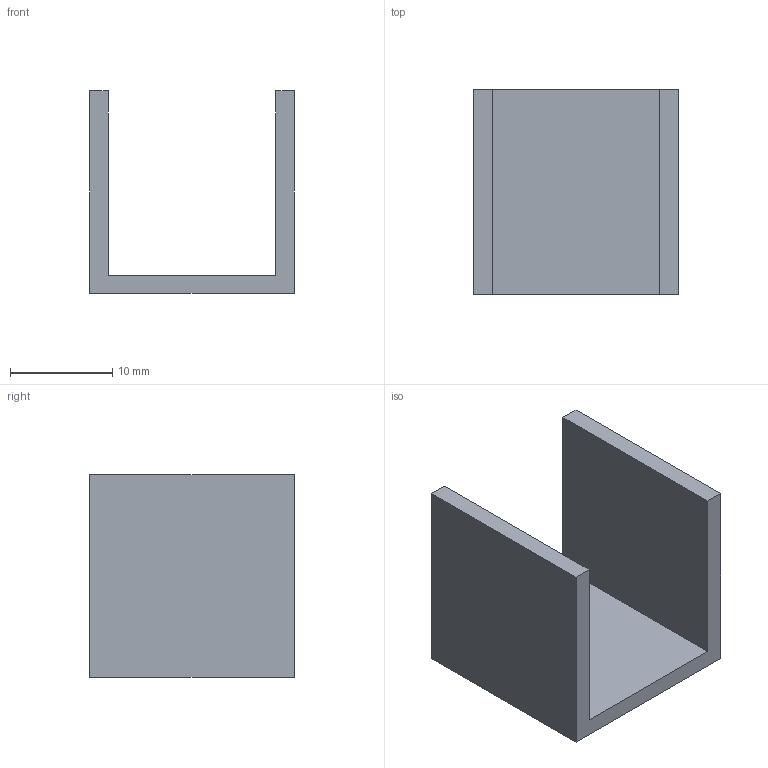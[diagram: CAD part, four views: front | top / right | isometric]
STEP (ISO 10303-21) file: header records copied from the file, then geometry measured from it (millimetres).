
FILE_DESCRIPTION (( 'STEP AP214' ), '1' );
FILE_NAME ('6362A698-E450-423B-9D00-D98D59151463.STEP', '2024-09-08T00:50:26', ( '' ), ( '' ), 'SwSTEP 2.0', 'SolidWorks 2022', '' );
FILE_SCHEMA (( 'AUTOMOTIVE_DESIGN' ));
Length unit declared in the file: millimetre
Products named in the file (1): 6362A698-E450-423B-9D00-D98D59151463
Bounding box: 20 x 20 x 19.75 mm (x, y, z)
Volume: 1996 mm3; surface area: 2509.6 mm2
Topology: 1 solids, 1 shells, 10 faces, 24 edges, 16 vertices
Faces by surface type: plane 10
Entity records: 432 total; most frequent: CARTESIAN_POINT 51, ORIENTED_EDGE 48, DIRECTION 46, LINE 24, EDGE_CURVE 24, VECTOR 24, VERTEX_POINT 16, UNCERTAINTY_MEASURE_WITH_UNIT 13
